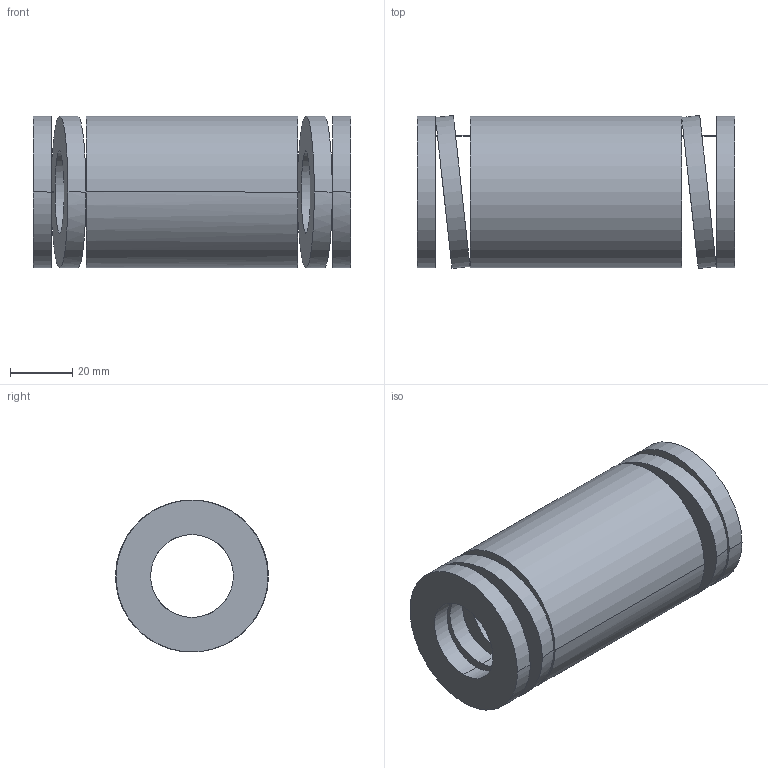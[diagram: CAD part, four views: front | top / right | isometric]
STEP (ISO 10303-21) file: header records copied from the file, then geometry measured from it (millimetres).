
FILE_DESCRIPTION(('CATIA V5 STEP Exchange'),'2;1');
FILE_NAME('C:\Users\Utente\Desktop\IO LAVORO\3D X SITO CF\X SITO\3D files 392B\392-B50-102.stp','2021-08-13T11:30:33+00:00',('none'),('none'),'CATIA Version 5 Release 20 GA (IN-10)','CATIA V5 STEP AP203','none');
FILE_SCHEMA(('CONFIG_CONTROL_DESIGN'));
Length unit declared in the file: millimetre
Products named in the file (1): 392-B50-102
Bounding box: 102 x 49.14 x 48.8 mm (x, y, z)
Volume: 119595.8 mm3; surface area: 34701.4 mm2
Topology: 1 solids, 1 shells, 38 faces, 92 edges, 64 vertices
Faces by surface type: cylinder 28, plane 10
Entity records: 1638 total; most frequent: CARTESIAN_POINT 761, ORIENTED_EDGE 184, DIRECTION 123, EDGE_CURVE 92, VERTEX_POINT 64, AXIS2_PLACEMENT_3D 58, EDGE_LOOP 56, B_SPLINE_CURVE_WITH_KNOTS 45
